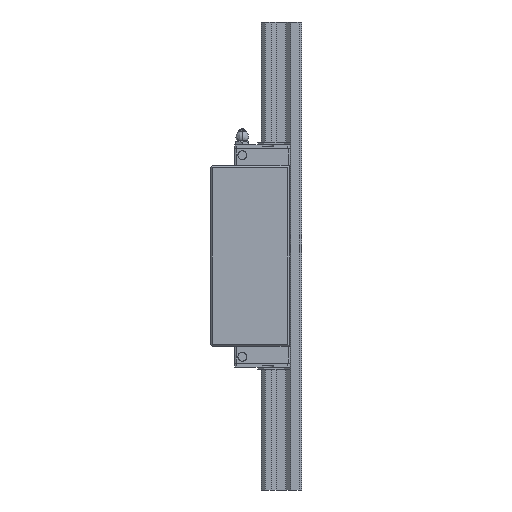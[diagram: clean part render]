
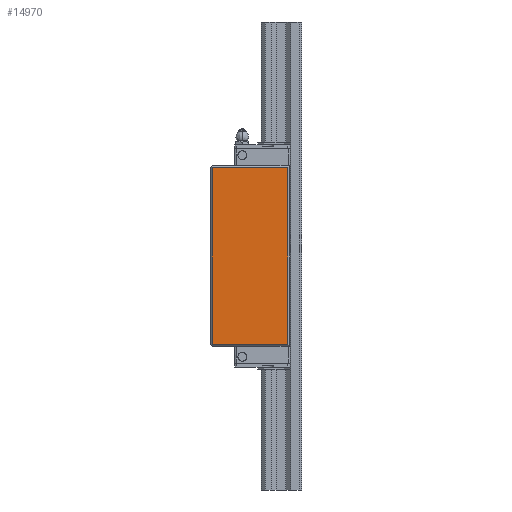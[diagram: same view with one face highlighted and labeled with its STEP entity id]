
A CAD part, left-side view. The second image highlights one B-rep face of the part: STEP entity #14970.
In plain terms, the highlighted planar face has unit normal (-1, 0, 0).
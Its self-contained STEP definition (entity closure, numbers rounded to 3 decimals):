
#924 = LINE ( 'NONE', #5641, #11208 ) ;
#1307 = DIRECTION ( 'NONE',  ( 1., 0., 0. ) ) ;
#1315 = EDGE_CURVE ( 'NONE', #4910, #12494, #3333, .T. ) ;
#1481 = VERTEX_POINT ( 'NONE', #7408 ) ;
#2442 = DIRECTION ( 'NONE',  ( 0., 0., -1. ) ) ;
#2542 = EDGE_CURVE ( 'NONE', #1481, #4910, #924, .T. ) ;
#2618 = CARTESIAN_POINT ( 'NONE',  ( -50.944, -31.899, 69.5 ) ) ;
#2750 = FACE_OUTER_BOUND ( 'NONE', #13342, .T. ) ;
#3333 = LINE ( 'NONE', #14543, #4894 ) ;
#4894 = VECTOR ( 'NONE', #8470, 1000. ) ;
#4910 = VERTEX_POINT ( 'NONE', #19846 ) ;
#5173 = VERTEX_POINT ( 'NONE', #6980 ) ;
#5582 = LINE ( 'NONE', #2618, #16275 ) ;
#5641 = CARTESIAN_POINT ( 'NONE',  ( -50.944, 27.701, 71. ) ) ;
#5769 = CARTESIAN_POINT ( 'NONE',  ( -50.944, 26.201, 207. ) ) ;
#5974 = ORIENTED_EDGE ( 'NONE', *, *, #1315, .F. ) ;
#6422 = ORIENTED_EDGE ( 'NONE', *, *, #2542, .F. ) ;
#6980 = CARTESIAN_POINT ( 'NONE',  ( -50.944, -31.899, 207. ) ) ;
#7408 = CARTESIAN_POINT ( 'NONE',  ( -50.944, -31.899, 71. ) ) ;
#8470 = DIRECTION ( 'NONE',  ( 0., 0., 1. ) ) ;
#9034 = ORIENTED_EDGE ( 'NONE', *, *, #20613, .F. ) ;
#10049 = DIRECTION ( 'NONE',  ( 0., -1., 0. ) ) ;
#11208 = VECTOR ( 'NONE', #18544, 1000. ) ;
#11672 = EDGE_CURVE ( 'NONE', #12494, #5173, #11834, .T. ) ;
#11834 = LINE ( 'NONE', #15063, #14719 ) ;
#12494 = VERTEX_POINT ( 'NONE', #5769 ) ;
#13342 = EDGE_LOOP ( 'NONE', ( #5974, #6422, #9034, #14830 ) ) ;
#13742 = DIRECTION ( 'NONE',  ( 0., 0., -1. ) ) ;
#13764 = CARTESIAN_POINT ( 'NONE',  ( -50.944, 27.701, 69.5 ) ) ;
#14543 = CARTESIAN_POINT ( 'NONE',  ( -50.944, 26.201, 69.5 ) ) ;
#14719 = VECTOR ( 'NONE', #10049, 1000. ) ;
#14830 = ORIENTED_EDGE ( 'NONE', *, *, #11672, .F. ) ;
#14970 = ADVANCED_FACE ( 'NONE', ( #2750 ), #16816, .F. ) ;
#15063 = CARTESIAN_POINT ( 'NONE',  ( -50.944, 27.701, 207. ) ) ;
#16275 = VECTOR ( 'NONE', #13742, 1000. ) ;
#16816 = PLANE ( 'NONE',  #18672 ) ;
#18544 = DIRECTION ( 'NONE',  ( 0., 1., 0. ) ) ;
#18672 = AXIS2_PLACEMENT_3D ( 'NONE', #13764, #1307, #2442 ) ;
#19846 = CARTESIAN_POINT ( 'NONE',  ( -50.944, 26.201, 71. ) ) ;
#20613 = EDGE_CURVE ( 'NONE', #5173, #1481, #5582, .T. ) ;
